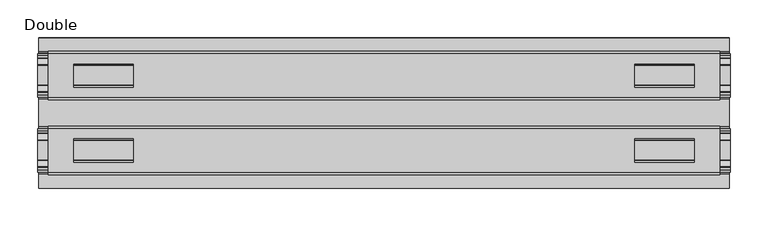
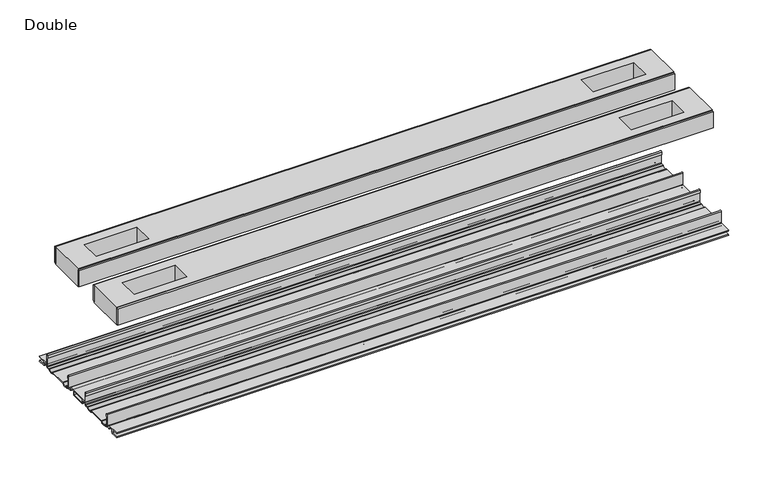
"""IFC4 building model written with IfcOpenShell, lengths in millimetres: proxy geometry, Frame-Teknion-FHCRA-Horizontal_Rail-R2022 : Double."""

import ifcopenshell
import ifcopenshell.guid

model = None  # the IFC model being written
_history = None  # IfcOwnerHistory: only IFC2X3 demands one
_inside = {}  # id of a spatial element -> (the spatial element, [elements in it])
_under = {}  # id of a project, library or spatial element -> (it, [spatial elements below it])
_declared = {}  # id of a project -> (the project, [libraries it declares])
_typed = {}  # id of a type object -> (the type object, [elements of that type])
_made_of = {}  # id of a material, layer set ... -> (it, [elements and type objects made of it])


def new_model(schema):
    """Start an empty IFC model of exactly this schema.

    Asked for "IFC4X3", IfcOpenShell would pick the latest addendum, in which some entities
    have other attributes; the version numbers below select the first issue.
    IFC2X3 requires an IfcOwnerHistory on every rooted entity: one is made here for all.
    """
    global model, _history
    if schema == "IFC4X3":
        model = ifcopenshell.file(schema_version=(4, 3, 0, 0))
    else:
        model = ifcopenshell.file(schema=schema)
    _inside.clear()
    _under.clear()
    _declared.clear()
    _typed.clear()
    _made_of.clear()
    _history = None
    if model.schema == "IFC2X3":
        org = make("IfcOrganization", Name="unknown")
        user = make(
            "IfcPersonAndOrganization",
            ThePerson=make("IfcPerson", FamilyName="unknown"),
            TheOrganization=org,
        )
        app = make(
            "IfcApplication",
            ApplicationDeveloper=org,
            Version="unknown",
            ApplicationFullName="unknown",
            ApplicationIdentifier="unknown",
        )
        _history = make(
            "IfcOwnerHistory",
            OwningUser=user,
            OwningApplication=app,
            ChangeAction="ADDED",
            CreationDate=0,
        )
    return model


def make(cls, **values):
    """One entity of the class cls with the attributes given. An attribute that is None is left unset."""
    return model.create_entity(
        cls, **{name: value for name, value in values.items() if value is not None}
    )


def rooted(cls, **values):
    """An entity with a GlobalId (a new one), such as an element, a storey or a relation."""
    return make(cls, GlobalId=ifcopenshell.guid.new(), OwnerHistory=_history, **values)


def si_unit(unit_type, name, prefix=None):
    """IfcSIUnit, for example si_unit("LENGTHUNIT", "METRE", prefix="MILLI")."""
    return make("IfcSIUnit", UnitType=unit_type, Prefix=prefix, Name=name)


def assignment(units):
    """IfcUnitAssignment: the units of a project."""
    return None if units is None else make("IfcUnitAssignment", Units=units)


def point(xyz):
    """IfcCartesianPoint."""
    return None if xyz is None else make("IfcCartesianPoint", Coordinates=xyz)


def direction(xyz):
    """IfcDirection."""
    return None if xyz is None else make("IfcDirection", DirectionRatios=xyz)


def frame(location, z_axis=None, x_axis=None):
    """IfcAxis2Placement3D, a coordinate frame: its origin and axes. An axis left out is left unset."""
    return make(
        "IfcAxis2Placement3D",
        Location=point(location),
        Axis=direction(z_axis),
        RefDirection=direction(x_axis),
    )


def frame_2d(location, x_axis=None):
    """IfcAxis2Placement2D, a coordinate frame in the plane: its origin and x axis."""
    return make(
        "IfcAxis2Placement2D", Location=point(location), RefDirection=direction(x_axis)
    )


def origin():
    """The frame at (0, 0, 0) with its axes left unset."""
    return frame((0.0, 0.0, 0.0))


def place(relative_to, where):
    """IfcLocalPlacement: puts the frame where relative to a parent placement (None: the world)."""
    return make(
        "IfcLocalPlacement", PlacementRelTo=relative_to, RelativePlacement=where
    )


def context(
    kind, dimensions, precision=None, world=None, true_north=None, identifier=None
):
    """IfcGeometricRepresentationContext, for example the 3D "Model" context."""
    return make(
        "IfcGeometricRepresentationContext",
        ContextIdentifier=identifier,
        ContextType=kind,
        CoordinateSpaceDimension=dimensions,
        Precision=precision,
        WorldCoordinateSystem=world,
        TrueNorth=true_north,
    )


def project(units=None, contexts=None):
    """IfcProject with its units and contexts."""
    return rooted(
        "IfcProject",
        Name="project",
        RepresentationContexts=contexts,
        UnitsInContext=assignment(units),
    )


def spatial(cls, under=None, at=None, **own):
    """A site, building, storey or space (cls), placed at a placement, below another one or the project."""
    s = rooted(cls, ObjectPlacement=at, **own)
    if under is not None:
        _under.setdefault(under.id(), (under, []))[1].append(s)
    return s


def polyline(points):
    """IfcPolyline through the points."""
    return make("IfcPolyline", Points=[point(p) for p in points])


def circle_curve(where, radius):
    """IfcCircle in the frame where."""
    return make("IfcCircle", Position=where, Radius=radius)


def trimmed(basis, trim1, trim2, sense, master):
    """IfcTrimmedCurve: the piece of a basis curve between two trims."""
    return make(
        "IfcTrimmedCurve",
        BasisCurve=basis,
        Trim1=trim1,
        Trim2=trim2,
        SenseAgreement=sense,
        MasterRepresentation=master,
    )


def segment(curve, same_sense, transition):
    """IfcCompositeCurveSegment."""
    return make(
        "IfcCompositeCurveSegment",
        Transition=transition,
        SameSense=same_sense,
        ParentCurve=curve,
    )


def composite_curve(segments, self_intersect=None):
    """IfcCompositeCurve: segments joined end to end."""
    return make("IfcCompositeCurve", Segments=segments, SelfIntersect=self_intersect)


def outline(outer, holes=None, kind="AREA"):
    """IfcArbitraryClosedProfileDef: a profile drawn as a closed curve; with holes, ...WithVoids."""
    if holes is None:
        return make("IfcArbitraryClosedProfileDef", ProfileType=kind, OuterCurve=outer)
    return make(
        "IfcArbitraryProfileDefWithVoids",
        ProfileType=kind,
        OuterCurve=outer,
        InnerCurves=holes,
    )


def extrude(swept, where, along, depth):
    """IfcExtrudedAreaSolid: the profile swept, set in the frame where, extruded along a direction by depth."""
    return make(
        "IfcExtrudedAreaSolid",
        SweptArea=swept,
        Position=where,
        ExtrudedDirection=direction(along),
        Depth=depth,
    )


def shape(context_of_items, identifier, shape_type, items):
    """IfcShapeRepresentation: the items that make up one representation, for example the "Body"."""
    return make(
        "IfcShapeRepresentation",
        ContextOfItems=context_of_items,
        RepresentationIdentifier=identifier,
        RepresentationType=shape_type,
        Items=items,
    )


def source(mapping_origin, context_of_items, identifier, shape_type, items):
    """IfcRepresentationMap: a shape defined once, which mapped items show again and again."""
    return make(
        "IfcRepresentationMap",
        MappingOrigin=mapping_origin,
        MappedRepresentation=shape(context_of_items, identifier, shape_type, items),
    )


def transform(
    local_origin,
    x_axis=None,
    y_axis=None,
    z_axis=None,
    scale=None,
    scale2=None,
    scale3=None,
    uniform=True,
):
    """IfcCartesianTransformationOperator3D, or its non-uniform kind. x_axis, y_axis, z_axis: its Axis1, 2, 3."""
    if uniform:
        return make(
            "IfcCartesianTransformationOperator3D",
            Axis1=direction(x_axis),
            Axis2=direction(y_axis),
            LocalOrigin=point(local_origin),
            Scale=scale,
            Axis3=direction(z_axis),
        )
    return make(
        "IfcCartesianTransformationOperator3DnonUniform",
        Axis1=direction(x_axis),
        Axis2=direction(y_axis),
        LocalOrigin=point(local_origin),
        Scale=scale,
        Axis3=direction(z_axis),
        Scale2=scale2,
        Scale3=scale3,
    )


def mapped(mapping_source, mapping_target):
    """IfcMappedItem: shows the shape of a source again, moved by a transform."""
    return make(
        "IfcMappedItem", MappingSource=mapping_source, MappingTarget=mapping_target
    )


def made_of(thing, what):
    """Note that an element or type object is made of a material, layer set ...; save() writes the relation."""
    if what is not None:
        _made_of.setdefault(what.id(), (what, []))[1].append(thing)
    return thing


def element(
    cls,
    number,
    at=None,
    inside=None,
    cuts=None,
    type_object=None,
    material=None,
    context=None,
    identifier="Body",
    shape_type=None,
    held_by="IfcProductDefinitionShape",
    body=None,
    shapes=None,
    **own,
):
    """One element of the class cls, such as IfcWall. Its Tag is "e" and its number.

    at: its placement. inside: the storey or other place that contains it. cuts: it is an
    opening in that element (IfcRelVoidsElement). A single representation is given by context,
    identifier, shape_type and body (its items); several are given by shapes. held_by: the class
    of the entity that holds the representations. save() writes the other relations.
    """
    e = rooted(cls, Tag="e%d" % number, ObjectPlacement=at, **own)
    if body is not None:
        shapes = [shape(context, identifier, shape_type, body)]
    if shapes is not None:
        e.Representation = make(held_by, Representations=shapes)
    if inside is not None:
        _inside.setdefault(inside.id(), (inside, []))[1].append(e)
    if cuts is not None:
        rooted(
            "IfcRelVoidsElement", RelatingBuildingElement=cuts, RelatedOpeningElement=e
        )
    if type_object is not None:
        _typed.setdefault(type_object.id(), (type_object, []))[1].append(e)
    return made_of(e, material)


def aggregate(whole, parts):
    """IfcRelAggregates: a whole, such as a stair, and the parts it consists of."""
    return rooted("IfcRelAggregates", RelatingObject=whole, RelatedObjects=parts)


def save(model, path):
    """Write the relations noted so far, then the file.

    IfcRelAggregates (storeys below a building ...), IfcRelContainedInSpatialStructure (elements
    in a storey), IfcRelDefinesByType, IfcRelAssociatesMaterial and IfcRelDeclares: one each for
    every whole, place, type object, material and project.
    """
    for whole, parts in _under.values():
        aggregate(whole, parts)
    for where, things in _inside.values():
        rooted(
            "IfcRelContainedInSpatialStructure",
            RelatedElements=things,
            RelatingStructure=where,
        )
    for kind, things in _typed.values():
        rooted("IfcRelDefinesByType", RelatedObjects=things, RelatingType=kind)
    for what, things in _made_of.values():
        rooted("IfcRelAssociatesMaterial", RelatedObjects=things, RelatingMaterial=what)
    for by, libraries in _declared.values():
        rooted("IfcRelDeclares", RelatingContext=by, RelatedDefinitions=libraries)
    model.write(path)


def double_11da3520(model_context):
    return source(origin(), model_context, "Body", "SweptSolid", [
        extrude(outline(composite_curve([segment(polyline([(-78.8225461, -7.7516037), (-78.8225461, 9.8607558)]), True, "CONTINUOUS"), segment(trimmed(circle_curve(frame_2d((-77.6033482, 9.8607558)), 1.2191979), [point((-78.8225461, 9.8607558))], [point((-76.3841503, 9.8607558))], False, "CARTESIAN"), True, "CONTINUOUS"), segment(polyline([(-76.3841503, 9.8607558), (-76.3841503, 5.9999563), (-77.6643269, 5.9999563), (-77.6643269, -7.7516037)]), True, "CONTINUOUS"), segment(trimmed(circle_curve(frame_2d((-76.6483061, -7.7516037)), 1.0160208), [point((-77.6643269, -7.7516037))], [point((-76.6548232, -8.7676036))], True, "CARTESIAN"), True, "CONTINUOUS"), segment(polyline([(-76.6548232, -8.7676036), (-72.7118726, -8.7676036), (-71.7985108, -8.968753)]), True, "CONTINUOUS"), segment(trimmed(circle_curve(frame_2d((-67.7735521, -6.1259382)), 4.9276657), [point((-71.7985108, -8.968753))], [point((-63.7485934, -8.968753))], True, "CARTESIAN"), True, "CONTINUOUS"), segment(polyline([(-63.7485934, -8.968753), (-62.8352226, -8.7676036), (-36.7962778, -8.7676036), (-35.8829069, -8.968753)]), True, "CONTINUOUS"), segment(trimmed(circle_curve(frame_2d((-31.8579482, -6.1259382)), 4.9276657), [point((-35.8829069, -8.968753))], [point((-27.8329895, -8.968753))], True, "CARTESIAN"), True, "CONTINUOUS"), segment(polyline([(-27.8329895, -8.968753), (-26.9196277, -8.7676036), (-22.9766772, -8.7676036)]), True, "CONTINUOUS"), segment(trimmed(circle_curve(frame_2d((-22.9831943, -7.7516037)), 1.0160208), [point((-22.9766772, -8.7676036))], [point((-21.9671735, -7.7516037))], True, "CARTESIAN"), True, "CONTINUOUS"), segment(polyline([(-21.9671735, -7.7516037), (-21.9671735, 5.9999563), (-23.2473501, 5.9999563), (-23.2473501, 9.8607558)]), True, "CONTINUOUS"), segment(trimmed(circle_curve(frame_2d((-22.0281522, 9.8607558)), 1.2191979), [point((-23.2473501, 9.8607558))], [point((-20.8089542, 9.8607558))], False, "CARTESIAN"), True, "CONTINUOUS"), segment(polyline([(-20.8089542, 9.8607558), (-20.8089542, -7.7516037)]), True, "CONTINUOUS"), segment(trimmed(circle_curve(frame_2d((-22.9831943, -7.7516037)), 2.17424), [point((-20.8089542, -7.7516037))], [point((-22.9831943, -9.9258438))], False, "CARTESIAN"), True, "CONTINUOUS"), segment(polyline([(-22.9831943, -9.9258438), (-27.274181, -9.9258438)]), True, "CONTINUOUS"), segment(trimmed(circle_curve(frame_2d((-31.8545955, -6.4800016)), 5.7318431), [point((-27.274181, -9.9258438))], [point((-36.43501, -9.9258438))], False, "CARTESIAN"), True, "CONTINUOUS"), segment(polyline([(-36.43501, -9.9258438), (-63.1964904, -9.9258438)]), True, "CONTINUOUS"), segment(trimmed(circle_curve(frame_2d((-67.7769049, -6.4800016)), 5.7318431), [point((-63.1964904, -9.9258438))], [point((-72.3573194, -9.9258438))], False, "CARTESIAN"), True, "CONTINUOUS"), segment(polyline([(-72.3573194, -9.9258438), (-76.6483061, -9.9258438)]), True, "CONTINUOUS"), segment(trimmed(circle_curve(frame_2d((-76.6483061, -7.7516037)), 2.17424), [point((-76.6483061, -9.9258438))], [point((-78.8225461, -7.7516037))], False, "CARTESIAN"), True, "CONTINUOUS")], self_intersect=False)), frame((-461.6704, 0.0, 0.0), z_axis=(1.0, 0.0, 0.0), x_axis=(0.0, 1.0, 0.0)), (0.0, 0.0, 1.0), 923.3408),
        extrude(outline(composite_curve([segment(trimmed(circle_curve(frame_2d((77.0293057, -7.7516037)), 2.17424), [point((79.2035458, -7.7516037))], [point((77.0293057, -9.9258438))], False, "CARTESIAN"), True, "CONTINUOUS"), segment(polyline([(77.0293057, -9.9258438), (72.738319, -9.9258438)]), True, "CONTINUOUS"), segment(trimmed(circle_curve(frame_2d((68.1579045, -6.4800016)), 5.7318431), [point((72.738319, -9.9258438))], [point((63.57749, -9.9258438))], False, "CARTESIAN"), True, "CONTINUOUS"), segment(polyline([(63.57749, -9.9258438), (36.8160096, -9.9258438)]), True, "CONTINUOUS"), segment(trimmed(circle_curve(frame_2d((32.2355951, -6.4800016)), 5.7318431), [point((36.8160096, -9.9258438))], [point((27.6551806, -9.9258438))], False, "CARTESIAN"), True, "CONTINUOUS"), segment(polyline([(27.6551806, -9.9258438), (23.3641939, -9.9258438)]), True, "CONTINUOUS"), segment(trimmed(circle_curve(frame_2d((23.3641939, -7.7516037)), 2.17424), [point((23.3641939, -9.9258438))], [point((21.1899539, -7.7516037))], False, "CARTESIAN"), True, "CONTINUOUS"), segment(polyline([(21.1899539, -7.7516037), (21.1899539, 9.8607558)]), True, "CONTINUOUS"), segment(trimmed(circle_curve(frame_2d((22.4091518, 9.8607558)), 1.2191979), [point((21.1899539, 9.8607558))], [point((23.6283497, 9.8607558))], False, "CARTESIAN"), True, "CONTINUOUS"), segment(polyline([(23.6283497, 9.8607558), (23.6283497, 5.9999563), (22.3481731, 5.9999563), (22.3481731, -7.7516037)]), True, "CONTINUOUS"), segment(trimmed(circle_curve(frame_2d((23.3641939, -7.7516037)), 1.0160208), [point((22.3481731, -7.7516037))], [point((23.3576768, -8.7676036))], True, "CARTESIAN"), True, "CONTINUOUS"), segment(polyline([(23.3576768, -8.7676036), (27.3006274, -8.7676036), (28.2139892, -8.968753)]), True, "CONTINUOUS"), segment(trimmed(circle_curve(frame_2d((32.2389479, -6.1259382)), 4.9276657), [point((28.2139892, -8.968753))], [point((36.2639066, -8.968753))], True, "CARTESIAN"), True, "CONTINUOUS"), segment(polyline([(36.2639066, -8.968753), (37.1772774, -8.7676036), (63.2162222, -8.7676036), (64.1295931, -8.968753)]), True, "CONTINUOUS"), segment(trimmed(circle_curve(frame_2d((68.1545518, -6.1259382)), 4.9276657), [point((64.1295931, -8.968753))], [point((72.1795105, -8.968753))], True, "CARTESIAN"), True, "CONTINUOUS"), segment(polyline([(72.1795105, -8.968753), (73.0928723, -8.7676036), (77.0358228, -8.7676036)]), True, "CONTINUOUS"), segment(trimmed(circle_curve(frame_2d((77.0293057, -7.7516037)), 1.0160208), [point((77.0358228, -8.7676036))], [point((78.0453265, -7.7516037))], True, "CARTESIAN"), True, "CONTINUOUS"), segment(polyline([(78.0453265, -7.7516037), (78.0453265, 5.9999563), (76.7651499, 5.9999563), (76.7651499, 9.8607558)]), True, "CONTINUOUS"), segment(trimmed(circle_curve(frame_2d((77.9843478, 9.8607558)), 1.2191979), [point((76.7651499, 9.8607558))], [point((79.2035458, 9.8607558))], False, "CARTESIAN"), True, "CONTINUOUS"), segment(polyline([(79.2035458, 9.8607558), (79.2035458, -7.7516037)]), True, "CONTINUOUS")], self_intersect=False)), frame((-461.6704, 0.0, 0.0), z_axis=(1.0, 0.0, 0.0), x_axis=(0.0, 1.0, 0.0)), (0.0, 0.0, 1.0), 923.3408),
        extrude(outline(polyline([(447.6115091, -78.8225461), (447.6115091, -81.9975522), (-447.6115091, -81.9975522), (-447.6115091, -78.8225461), (447.6115091, -78.8225461)])), frame((0.0, 0.0, 149.8401622), z_axis=(0.0, 0.0, 1.0), x_axis=(1.0, 0.0, 0.0)), (0.0, 0.0, 1.0), 25.3999939),
        extrude(outline(polyline([(447.6115091, -17.6339482), (447.6115091, -20.8089542), (-447.6115091, -20.8089542), (-447.6115091, -17.6339482), (447.6115091, -17.6339482)])), frame((0.0, 0.0, 149.8401622), z_axis=(0.0, 0.0, 1.0), x_axis=(1.0, 0.0, 0.0)), (0.0, 0.0, 1.0), 25.3999939),
        extrude(outline(polyline([(447.6115091, 21.1899493), (447.6115091, 18.0149501), (-447.6115091, 18.0149501), (-447.6115091, 21.1899493), (447.6115091, 21.1899493)])), frame((0.0, 0.0, 149.8401622), z_axis=(0.0, 0.0, 1.0), x_axis=(1.0, 0.0, 0.0)), (0.0, 0.0, 1.0), 25.3999939),
        extrude(outline(polyline([(447.6115091, 82.3785496), (447.6115091, 79.2035503), (-447.6115091, 79.2035503), (-447.6115091, 82.3785496), (447.6115091, 82.3785496)])), frame((0.0, 0.0, 149.8401622), z_axis=(0.0, 0.0, 1.0), x_axis=(1.0, 0.0, 0.0)), (0.0, 0.0, 1.0), 25.3999939),
        extrude(outline(polyline([(447.6115091, 79.2035503), (447.6115091, 21.1899493), (-447.6115091, 21.1899493), (-447.6115091, 79.2035503), (447.6115091, 79.2035503)]), holes=[polyline([(413.1944965, 65.3097536), (334.1496847, 65.3097536), (334.1496847, 34.3217468), (413.1944965, 34.3217468), (413.1944965, 65.3097536)]), polyline([(-413.1944965, 65.3097536), (-413.1944965, 34.3217468), (-334.1496847, 34.3217468), (-334.1496847, 65.3097536), (-413.1944965, 65.3097536)])]), frame((0.0, 0.0, 148.4185847), z_axis=(0.0, 0.0, 1.0), x_axis=(1.0, 0.0, 0.0)), (0.0, 0.0, 1.0), 27.9999988),
        extrude(outline(polyline([(447.6115091, -78.8225461), (-447.6115091, -78.8225461), (-447.6115091, -20.8224524), (447.6115091, -20.8224524), (447.6115091, -78.8225461)]), holes=[polyline([(413.1944965, -65.3097536), (413.1944965, -34.3217468), (334.1496847, -34.3217468), (334.1496847, -65.3097536), (413.1944965, -65.3097536)]), polyline([(-413.1944965, -65.3097536), (-334.1496847, -65.3097536), (-334.1496847, -34.3217468), (-413.1944965, -34.3217468), (-413.1944965, -65.3097536)])]), frame((0.0, 0.0, 148.4185847), z_axis=(0.0, 0.0, 1.0), x_axis=(1.0, 0.0, 0.0)), (0.0, 0.0, 1.0), 27.9999988),
        extrude(outline(composite_curve([segment(polyline([(-100.2730922, -13.9898438), (-100.2302711, -12.3388438), (-89.7890007, -12.3388438), (-89.7890007, -7.766844), (-100.2302711, -7.766844), (-100.2730922, -6.1158439), (-81.1847475, -6.1158439)]), True, "CONTINUOUS"), segment(trimmed(circle_curve(frame_2d((-81.1847475, -7.6398436)), 1.5239997), [point((-81.1847475, -6.1158439))], [point((-79.6607478, -7.6398436))], False, "CARTESIAN"), True, "CONTINUOUS"), segment(polyline([(-79.6607478, -7.6398436), (-79.6607478, -9.9258438), (-73.1120844, -9.9258438)]), True, "CONTINUOUS"), segment(trimmed(circle_curve(frame_2d((-67.7735521, -5.2268471)), 7.1119966), [point((-73.1120844, -9.9258438))], [point((-62.4350199, -9.9258438))], True, "CARTESIAN"), True, "CONTINUOUS"), segment(polyline([(-62.4350199, -9.9258438), (-37.1964805, -9.9258438)]), True, "CONTINUOUS"), segment(trimmed(circle_curve(frame_2d((-31.8579482, -5.2268471)), 7.1119966), [point((-37.1964805, -9.9258438))], [point((-26.519416, -9.9258438))], True, "CARTESIAN"), True, "CONTINUOUS"), segment(polyline([(-26.519416, -9.9258438), (-19.9707525, -9.9258438), (-19.9707525, -7.7656583)]), True, "CONTINUOUS"), segment(trimmed(circle_curve(frame_2d((-18.3197518, -7.7656583)), 1.6510007), [point((-19.9707525, -7.7656583))], [point((-18.3823282, -6.1158439))], False, "CARTESIAN"), True, "CONTINUOUS"), segment(polyline([(-18.3823282, -6.1158439), (18.7633278, -6.1158439)]), True, "CONTINUOUS"), segment(trimmed(circle_curve(frame_2d((18.7007515, -7.7656583)), 1.6510007), [point((18.7633278, -6.1158439))], [point((20.3517522, -7.7656583))], False, "CARTESIAN"), True, "CONTINUOUS"), segment(polyline([(20.3517522, -7.7656583), (20.3517522, -9.9258438), (26.9004156, -9.9258438)]), True, "CONTINUOUS"), segment(trimmed(circle_curve(frame_2d((32.2389479, -5.2268471)), 7.1119966), [point((26.9004156, -9.9258438))], [point((37.5774801, -9.9258438))], True, "CARTESIAN"), True, "CONTINUOUS"), segment(polyline([(37.5774801, -9.9258438), (62.8160195, -9.9258438)]), True, "CONTINUOUS"), segment(trimmed(circle_curve(frame_2d((68.1545518, -5.2268471)), 7.1119966), [point((62.8160195, -9.9258438))], [point((73.493084, -9.9258438))], True, "CARTESIAN"), True, "CONTINUOUS"), segment(polyline([(73.493084, -9.9258438), (80.0417475, -9.9258438), (80.0417475, -7.7656583)]), True, "CONTINUOUS"), segment(trimmed(circle_curve(frame_2d((81.6927482, -7.7656583)), 1.6510007), [point((80.0417475, -7.7656583))], [point((81.6301718, -6.1158439))], False, "CARTESIAN"), True, "CONTINUOUS"), segment(polyline([(81.6301718, -6.1158439), (100.6540918, -6.1158439), (100.6112708, -7.766844), (90.1700003, -7.766844), (90.1700003, -12.3388438), (100.6112708, -12.3388438), (100.6540918, -13.9898438), (90.0430018, -13.9898438)]), True, "CONTINUOUS"), segment(trimmed(circle_curve(frame_2d((90.0430018, -12.4658438)), 1.524), [point((90.0430018, -13.9898438))], [point((88.5190019, -12.4658438))], False, "CARTESIAN"), True, "CONTINUOUS"), segment(polyline([(88.5190019, -12.4658438), (88.5190019, -7.766844), (81.692747, -7.766844), (81.692747, -10.0528438)]), True, "CONTINUOUS"), segment(trimmed(circle_curve(frame_2d((80.1687471, -10.0528438)), 1.524), [point((81.692747, -10.0528438))], [point((80.1687471, -11.5768438))], False, "CARTESIAN"), True, "CONTINUOUS"), segment(polyline([(80.1687471, -11.5768438), (73.6626049, -11.5768438)]), True, "CONTINUOUS"), segment(trimmed(circle_curve(frame_2d((68.1545518, -6.4968436)), 7.4930002), [point((73.6626049, -11.5768438))], [point((62.8967468, -11.8354331))], False, "CARTESIAN"), True, "CONTINUOUS"), segment(polyline([(62.8967468, -11.8354331), (37.4967528, -11.8354331)]), True, "CONTINUOUS"), segment(trimmed(circle_curve(frame_2d((32.2389479, -6.4968436)), 7.4930002), [point((37.4967528, -11.8354331))], [point((26.7308947, -11.5768438))], False, "CARTESIAN"), True, "CONTINUOUS"), segment(polyline([(26.7308947, -11.5768438), (20.2247526, -11.5768438)]), True, "CONTINUOUS"), segment(trimmed(circle_curve(frame_2d((20.2247526, -10.0528438)), 1.524), [point((20.2247526, -11.5768438))], [point((18.7007526, -10.0528438))], False, "CARTESIAN"), True, "CONTINUOUS"), segment(polyline([(18.7007526, -10.0528438), (18.7007526, -7.766844), (11.8744978, -7.766844), (11.8744978, -12.4658438)]), True, "CONTINUOUS"), segment(trimmed(circle_curve(frame_2d((10.3504978, -12.4658438)), 1.524), [point((11.8744978, -12.4658438))], [point((10.3504978, -13.9898438))], False, "CARTESIAN"), True, "CONTINUOUS"), segment(polyline([(10.3504978, -13.9898438), (-9.9694982, -13.9898438)]), True, "CONTINUOUS"), segment(trimmed(circle_curve(frame_2d((-9.9694982, -12.4658438)), 1.524), [point((-9.9694982, -13.9898438))], [point((-11.4934981, -12.4658438))], False, "CARTESIAN"), True, "CONTINUOUS"), segment(polyline([(-11.4934981, -12.4658438), (-11.4934981, -7.766844), (-18.319753, -7.766844), (-18.319753, -10.0528438)]), True, "CONTINUOUS"), segment(trimmed(circle_curve(frame_2d((-19.8437529, -10.0528438)), 1.524), [point((-18.319753, -10.0528438))], [point((-19.8437529, -11.5768438))], False, "CARTESIAN"), True, "CONTINUOUS"), segment(polyline([(-19.8437529, -11.5768438), (-26.3498951, -11.5768438)]), True, "CONTINUOUS"), segment(trimmed(circle_curve(frame_2d((-31.8579482, -6.4968436)), 7.4930002), [point((-26.3498951, -11.5768438))], [point((-37.1157532, -11.8354331))], False, "CARTESIAN"), True, "CONTINUOUS"), segment(polyline([(-37.1157532, -11.8354331), (-62.5157472, -11.8354331)]), True, "CONTINUOUS"), segment(trimmed(circle_curve(frame_2d((-67.7735521, -6.4968436)), 7.4930002), [point((-62.5157472, -11.8354331))], [point((-73.2816053, -11.5768438))], False, "CARTESIAN"), True, "CONTINUOUS"), segment(polyline([(-73.2816053, -11.5768438), (-79.7877474, -11.5768438)]), True, "CONTINUOUS"), segment(trimmed(circle_curve(frame_2d((-79.7877474, -10.0528438)), 1.524), [point((-79.7877474, -11.5768438))], [point((-81.3117474, -10.0528438))], False, "CARTESIAN"), True, "CONTINUOUS"), segment(polyline([(-81.3117474, -10.0528438), (-81.3117474, -7.766844), (-88.1380022, -7.766844), (-88.1380022, -12.4658438)]), True, "CONTINUOUS"), segment(trimmed(circle_curve(frame_2d((-89.6620022, -12.4658438)), 1.524), [point((-88.1380022, -12.4658438))], [point((-89.6620022, -13.9898438))], False, "CARTESIAN"), True, "CONTINUOUS"), segment(polyline([(-89.6620022, -13.9898438), (-100.2730922, -13.9898438)]), True, "CONTINUOUS")], self_intersect=False), holes=[polyline([(-9.8424997, -12.3388438), (10.2234993, -12.3388438), (10.2234993, -7.766844), (-9.8424997, -7.766844), (-9.8424997, -12.3388438)])]), frame((-460.0194, 0.0, 0.0), z_axis=(1.0, 0.0, 0.0), x_axis=(0.0, 1.0, 0.0)), (0.0, 0.0, 1.0), 920.0388),
    ])


if __name__ == "__main__":
    model = new_model("IFC4")
    model_context = context("Model", 3, world=origin())
    ifc_project = project(units=[si_unit("LENGTHUNIT", "METRE", prefix="MILLI")], contexts=[model_context])
    site = spatial("IfcSite", under=ifc_project)
    building = spatial("IfcBuilding", under=site)
    placement = place(None, origin())
    double_shape = double_11da3520(model_context)
    element("IfcBuildingElementProxy", 1, Name="Frame-Teknion-FHCRA-Horizontal_Rail-R2022 : Double", ObjectType="Frame-Teknion-FHCRA-Horizontal_Rail-R2022 : Double", at=placement, inside=building, context=model_context, shape_type="MappedRepresentation", body=[
        mapped(double_shape, transform((0.0, 0.0, 0.0), x_axis=(1.0, 0.0, 0.0), y_axis=(0.0, 1.0, 0.0), z_axis=(0.0, 0.0, 1.0))),
    ])
    save(model, "model.ifc")
